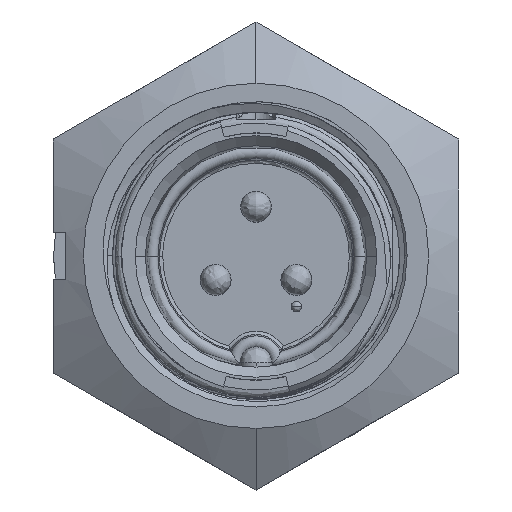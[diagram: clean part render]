
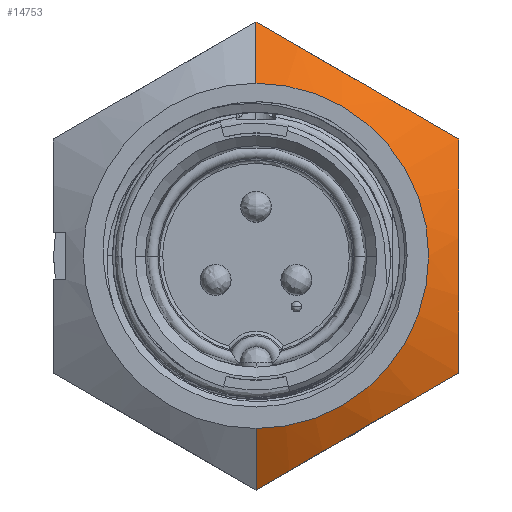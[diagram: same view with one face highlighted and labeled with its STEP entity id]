
A CAD part, top view. The second image highlights one B-rep face of the part: STEP entity #14753.
In plain terms, the highlighted conical face has half-angle 60 degrees and reference radius 11.934 mm.
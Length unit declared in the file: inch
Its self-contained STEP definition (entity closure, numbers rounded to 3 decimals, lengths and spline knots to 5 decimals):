
#175 = CARTESIAN_POINT ( 'NONE',  ( 0.40625, -0.23455, 1.07 ) ) ;
#592 = CARTESIAN_POINT ( 'NONE',  ( 0., 0.34612, 1.141 ) ) ;
#2008 = CARTESIAN_POINT ( 'NONE',  ( 0., 0.46983, 1.06957 ) ) ;
#2600 = CARTESIAN_POINT ( 'NONE',  ( 0.40625, -0.15767, 1.09017 ) ) ;
#3081 = LINE ( 'NONE', #15984, #15776 ) ;
#3338 = CARTESIAN_POINT ( 'NONE',  ( 0.33968, 0.27299, 1.09017 ) ) ;
#3452 = VERTEX_POINT ( 'NONE', #27548 ) ;
#3983 = ORIENTED_EDGE ( 'NONE', *, *, #7629, .T. ) ;
#3991 = B_SPLINE_CURVE_WITH_KNOTS ( 'NONE', 3,
 ( #29622, #12783, #3338, #20099, #5689, #22527, #8041, #24918, #10437, #27325, #12884, #29727 ),
 .UNSPECIFIED., .F., .F.,
 ( 4, 2, 2, 2, 2, 4 ),
 ( 0., 0.00301, 0.00602, 0.00752, 0.00903, 0.01203 ),
 .UNSPECIFIED. ) ;
#4370 = CARTESIAN_POINT ( 'NONE',  ( 0.13409, -0.39168, 1.10279 ) ) ;
#4944 = CARTESIAN_POINT ( 'NONE',  ( 0.40625, -0.04033, 1.10626 ) ) ;
#5689 = CARTESIAN_POINT ( 'NONE',  ( 0.23805, 0.33166, 1.10626 ) ) ;
#6596 = DIRECTION ( 'NONE',  ( 0., 0., -1. ) ) ;
#6716 = CARTESIAN_POINT ( 'NONE',  ( 0.22001, -0.34208, 1.1063 ) ) ;
#7112 = CONICAL_SURFACE ( 'NONE', #21168, 0.46983, 1.047 ) ;
#7289 = CARTESIAN_POINT ( 'NONE',  ( 0.40625, 0.03953, 1.10545 ) ) ;
#7629 = EDGE_CURVE ( 'NONE', #3452, #12167, #3991, .T. ) ;
#7774 = ORIENTED_EDGE ( 'NONE', *, *, #13493, .F. ) ;
#8041 = CARTESIAN_POINT ( 'NONE',  ( 0.16889, 0.37159, 1.10545 ) ) ;
#8188 = AXIS2_PLACEMENT_3D ( 'NONE', #21069, #6596, #23477 ) ;
#9118 = CARTESIAN_POINT ( 'NONE',  ( 0.27168, -0.31224, 1.10214 ) ) ;
#9681 = CARTESIAN_POINT ( 'NONE',  ( 0.40625, 0.09884, 1.09969 ) ) ;
#10437 = CARTESIAN_POINT ( 'NONE',  ( 0.11753, 0.40124, 1.09969 ) ) ;
#10454 = EDGE_CURVE ( 'NONE', #27360, #18611, #27390, .T. ) ;
#11423 = CARTESIAN_POINT ( 'NONE',  ( 0., -0.4691, 1.07 ) ) ;
#11525 = CARTESIAN_POINT ( 'NONE',  ( 0.33956, -0.27305, 1.0902 ) ) ;
#11829 = VECTOR ( 'NONE', #16304, 39.37008 ) ;
#12122 = CARTESIAN_POINT ( 'NONE',  ( 0.40625, 0.1962, 1.08107 ) ) ;
#12167 = VERTEX_POINT ( 'NONE', #25120 ) ;
#12504 = ORIENTED_EDGE ( 'NONE', *, *, #22301, .T. ) ;
#12604 = DIRECTION ( 'NONE',  ( 0., 0., -1. ) ) ;
#12658 = CARTESIAN_POINT ( 'NONE',  ( 0.40625, -0.23455, 1.07 ) ) ;
#12709 = DIRECTION ( 'NONE',  ( 0., 1., 0. ) ) ;
#12783 = CARTESIAN_POINT ( 'NONE',  ( 0.37308, 0.2537, 1.08106 ) ) ;
#12884 = CARTESIAN_POINT ( 'NONE',  ( 0.03321, 0.44992, 1.08107 ) ) ;
#13493 = EDGE_CURVE ( 'NONE', #24752, #12167, #18306, .T. ) ;
#13985 = CARTESIAN_POINT ( 'NONE',  ( 0.40625, -0.23455, 1.07 ) ) ;
#14753 = ADVANCED_FACE ( 'NONE', ( #17347 ), #7112, .T. ) ;
#15776 = VECTOR ( 'NONE', #30450, 39.37008 ) ;
#15984 = CARTESIAN_POINT ( 'NONE',  ( 0., -0.46983, 1.06957 ) ) ;
#16304 = DIRECTION ( 'NONE',  ( 0., 0.866, -0.5 ) ) ;
#16522 = CIRCLE ( 'NONE', #8188, 0.34612 ) ;
#17347 = FACE_OUTER_BOUND ( 'NONE', #17495, .T. ) ;
#17495 = EDGE_LOOP ( 'NONE', ( #12504, #24263, #19286, #27124, #3983, #7774 ) ) ;
#18306 = LINE ( 'NONE', #2008, #11829 ) ;
#18611 = VERTEX_POINT ( 'NONE', #12658 ) ;
#18759 = CARTESIAN_POINT ( 'NONE',  ( 0.06657, -0.43066, 1.09017 ) ) ;
#19286 = ORIENTED_EDGE ( 'NONE', *, *, #10454, .T. ) ;
#19340 = CARTESIAN_POINT ( 'NONE',  ( 0.40625, -0.07972, 1.10279 ) ) ;
#20099 = CARTESIAN_POINT ( 'NONE',  ( 0.27216, 0.31196, 1.10279 ) ) ;
#21069 = CARTESIAN_POINT ( 'NONE',  ( 0., 0., 1.141 ) ) ;
#21168 = AXIS2_PLACEMENT_3D ( 'NONE', #29450, #12604, #12709 ) ;
#21199 = CARTESIAN_POINT ( 'NONE',  ( 0.1682, -0.37199, 1.10626 ) ) ;
#21779 = CARTESIAN_POINT ( 'NONE',  ( 0.40625, 0.01949, 1.1063 ) ) ;
#22263 = EDGE_CURVE ( 'NONE', #28944, #27360, #3081, .T. ) ;
#22301 = EDGE_CURVE ( 'NONE', #24752, #28944, #16522, .T. ) ;
#22527 = CARTESIAN_POINT ( 'NONE',  ( 0.18624, 0.36157, 1.1063 ) ) ;
#23477 = DIRECTION ( 'NONE',  ( 0., 1., 0. ) ) ;
#23602 = CARTESIAN_POINT ( 'NONE',  ( 0.23736, -0.33206, 1.10545 ) ) ;
#23714 = CARTESIAN_POINT ( 'NONE',  ( 0., -0.4691, 1.07 ) ) ;
#24175 = CARTESIAN_POINT ( 'NONE',  ( 0.40625, 0.07916, 1.10214 ) ) ;
#24263 = ORIENTED_EDGE ( 'NONE', *, *, #22263, .T. ) ;
#24752 = VERTEX_POINT ( 'NONE', #592 ) ;
#24918 = CARTESIAN_POINT ( 'NONE',  ( 0.13457, 0.3914, 1.10214 ) ) ;
#25120 = CARTESIAN_POINT ( 'NONE',  ( 0., 0.4691, 1.07 ) ) ;
#25987 = CARTESIAN_POINT ( 'NONE',  ( 0.28872, -0.3024, 1.09969 ) ) ;
#26565 = CARTESIAN_POINT ( 'NONE',  ( 0.40625, 0.15754, 1.0902 ) ) ;
#27019 = CARTESIAN_POINT ( 'NONE',  ( 0., -0.34612, 1.141 ) ) ;
#27124 = ORIENTED_EDGE ( 'NONE', *, *, #30827, .T. ) ;
#27325 = CARTESIAN_POINT ( 'NONE',  ( 0.06669, 0.43059, 1.0902 ) ) ;
#27360 = VERTEX_POINT ( 'NONE', #23714 ) ;
#27390 = B_SPLINE_CURVE_WITH_KNOTS ( 'NONE', 3,
 ( #11423, #28298, #18759, #4370, #21199, #6716, #23602, #9118, #25987, #11525, #28399, #13985 ),
 .UNSPECIFIED., .F., .F.,
 ( 4, 2, 2, 2, 2, 4 ),
 ( 0., 0.00301, 0.00602, 0.00752, 0.00903, 0.01203 ),
 .UNSPECIFIED. ) ;
#27548 = CARTESIAN_POINT ( 'NONE',  ( 0.40625, 0.23455, 1.07 ) ) ;
#28298 = CARTESIAN_POINT ( 'NONE',  ( 0.03317, -0.44995, 1.08106 ) ) ;
#28399 = CARTESIAN_POINT ( 'NONE',  ( 0.37304, -0.25372, 1.08107 ) ) ;
#28554 = B_SPLINE_CURVE_WITH_KNOTS ( 'NONE', 3,
 ( #175, #28869, #2600, #19340, #4944, #21779, #7289, #24175, #9681, #26565, #12122, #28979 ),
 .UNSPECIFIED., .F., .F.,
 ( 4, 2, 2, 2, 2, 4 ),
 ( 0., 0.00301, 0.00602, 0.00752, 0.00903, 0.01203 ),
 .UNSPECIFIED. ) ;
#28869 = CARTESIAN_POINT ( 'NONE',  ( 0.40625, -0.19625, 1.08106 ) ) ;
#28944 = VERTEX_POINT ( 'NONE', #27019 ) ;
#28979 = CARTESIAN_POINT ( 'NONE',  ( 0.40625, 0.23455, 1.07 ) ) ;
#29450 = CARTESIAN_POINT ( 'NONE',  ( 0., 0., 1.06957 ) ) ;
#29622 = CARTESIAN_POINT ( 'NONE',  ( 0.40625, 0.23455, 1.07 ) ) ;
#29727 = CARTESIAN_POINT ( 'NONE',  ( 0., 0.4691, 1.07 ) ) ;
#30450 = DIRECTION ( 'NONE',  ( 0., -0.866, -0.5 ) ) ;
#30827 = EDGE_CURVE ( 'NONE', #18611, #3452, #28554, .T. ) ;
